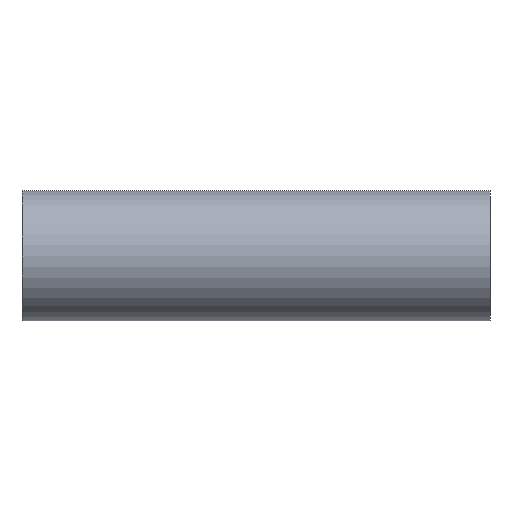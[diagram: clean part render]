
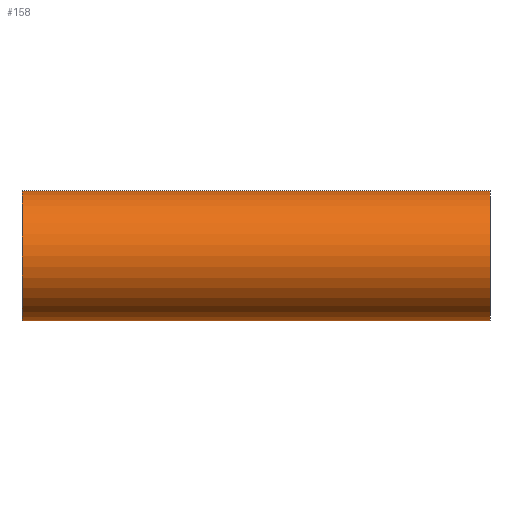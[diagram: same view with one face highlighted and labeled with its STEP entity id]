
A CAD part, front view. The second image highlights one B-rep face of the part: STEP entity #158.
In plain terms, the highlighted cylindrical face has radius 15.875 mm (diameter 31.75 mm), a partial arc.
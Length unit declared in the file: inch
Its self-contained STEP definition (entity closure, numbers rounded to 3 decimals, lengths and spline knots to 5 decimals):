
#3 = DIRECTION ( 'NONE',  ( -1., 0., 0. ) ) ;
#5 = CARTESIAN_POINT ( 'NONE',  ( 2.25, 0., 0.625 ) ) ;
#8 = EDGE_CURVE ( 'NONE', #265, #312, #206, .T. ) ;
#18 = DIRECTION ( 'NONE',  ( -1., 0., 0. ) ) ;
#24 = CARTESIAN_POINT ( 'NONE',  ( 2.25, 0., -0.625 ) ) ;
#28 = CARTESIAN_POINT ( 'NONE',  ( 2.25, 0., 0.625 ) ) ;
#37 = CARTESIAN_POINT ( 'NONE',  ( 0., 0., 0.625 ) ) ;
#38 = EDGE_CURVE ( 'NONE', #329, #383, #195, .T. ) ;
#45 = CARTESIAN_POINT ( 'NONE',  ( 2.25, 0., 0.625 ) ) ;
#54 = DIRECTION ( 'NONE',  ( -1., 0., 0. ) ) ;
#55 = DIRECTION ( 'NONE',  ( -1., 0., 0. ) ) ;
#72 = CARTESIAN_POINT ( 'NONE',  ( -2.25, 0., 0.625 ) ) ;
#75 = CARTESIAN_POINT ( 'NONE',  ( 2.25, 0., 0. ) ) ;
#84 = EDGE_CURVE ( 'NONE', #306, #265, #194, .T. ) ;
#85 = CARTESIAN_POINT ( 'NONE',  ( 0., 0., -0.625 ) ) ;
#94 = VECTOR ( 'NONE', #3, 39.37008 ) ;
#97 = LINE ( 'NONE', #408, #94 ) ;
#102 = CIRCLE ( 'NONE', #274, 0.625 ) ;
#113 = CARTESIAN_POINT ( 'NONE',  ( -2.25, 0., -0.625 ) ) ;
#126 = VERTEX_POINT ( 'NONE', #113 ) ;
#139 = CARTESIAN_POINT ( 'NONE',  ( -2.25, 0., 0. ) ) ;
#140 = DIRECTION ( 'NONE',  ( 0., 0., -1. ) ) ;
#158 = ADVANCED_FACE ( 'NONE', ( #177 ), #167, .T. ) ;
#167 = CYLINDRICAL_SURFACE ( 'NONE', #370, 0.625 ) ;
#168 = CIRCLE ( 'NONE', #363, 0.625 ) ;
#175 = DIRECTION ( 'NONE',  ( 0., 0., -1. ) ) ;
#177 = FACE_OUTER_BOUND ( 'NONE', #298, .T. ) ;
#181 = VECTOR ( 'NONE', #307, 39.37008 ) ;
#188 = VECTOR ( 'NONE', #55, 39.37008 ) ;
#191 = CARTESIAN_POINT ( 'NONE',  ( 2.25, 0., -0.625 ) ) ;
#194 = LINE ( 'NONE', #28, #181 ) ;
#195 = LINE ( 'NONE', #191, #188 ) ;
#206 = LINE ( 'NONE', #5, #414 ) ;
#241 = EDGE_CURVE ( 'NONE', #312, #126, #168, .T. ) ;
#265 = VERTEX_POINT ( 'NONE', #37 ) ;
#274 = AXIS2_PLACEMENT_3D ( 'NONE', #75, #420, #175 ) ;
#298 = EDGE_LOOP ( 'NONE', ( #333, #432, #421, #378, #416, #343 ) ) ;
#306 = VERTEX_POINT ( 'NONE', #45 ) ;
#307 = DIRECTION ( 'NONE',  ( -1., 0., 0. ) ) ;
#312 = VERTEX_POINT ( 'NONE', #72 ) ;
#329 = VERTEX_POINT ( 'NONE', #24 ) ;
#333 = ORIENTED_EDGE ( 'NONE', *, *, #38, .F. ) ;
#343 = ORIENTED_EDGE ( 'NONE', *, *, #439, .F. ) ;
#347 = DIRECTION ( 'NONE',  ( 0., 0., 1. ) ) ;
#363 = AXIS2_PLACEMENT_3D ( 'NONE', #139, #427, #140 ) ;
#370 = AXIS2_PLACEMENT_3D ( 'NONE', #388, #54, #347 ) ;
#378 = ORIENTED_EDGE ( 'NONE', *, *, #8, .T. ) ;
#383 = VERTEX_POINT ( 'NONE', #85 ) ;
#388 = CARTESIAN_POINT ( 'NONE',  ( 2.25, 0., 0. ) ) ;
#408 = CARTESIAN_POINT ( 'NONE',  ( 2.25, 0., -0.625 ) ) ;
#414 = VECTOR ( 'NONE', #18, 39.37008 ) ;
#416 = ORIENTED_EDGE ( 'NONE', *, *, #241, .T. ) ;
#420 = DIRECTION ( 'NONE',  ( 1., 0., 0. ) ) ;
#421 = ORIENTED_EDGE ( 'NONE', *, *, #84, .T. ) ;
#427 = DIRECTION ( 'NONE',  ( 1., 0., 0. ) ) ;
#432 = ORIENTED_EDGE ( 'NONE', *, *, #445, .F. ) ;
#439 = EDGE_CURVE ( 'NONE', #383, #126, #97, .T. ) ;
#445 = EDGE_CURVE ( 'NONE', #306, #329, #102, .T. ) ;
